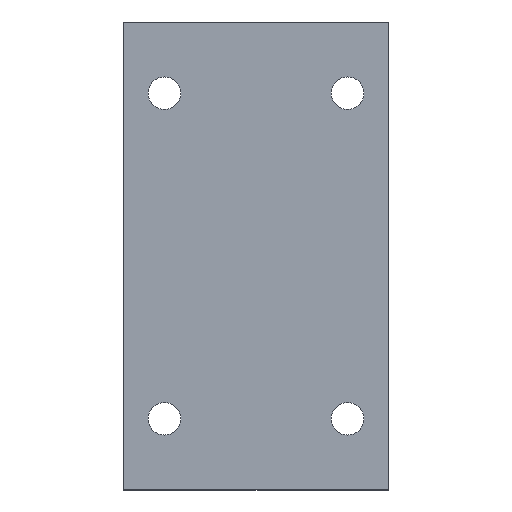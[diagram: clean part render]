
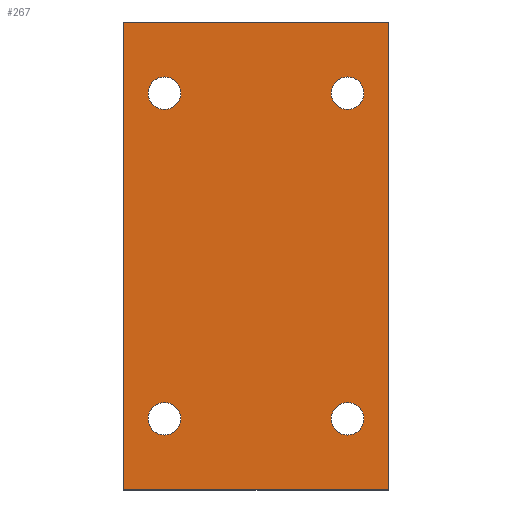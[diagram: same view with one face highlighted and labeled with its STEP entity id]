
A CAD part, top view. The second image highlights one B-rep face of the part: STEP entity #267.
In plain terms, the highlighted planar face has unit normal (0, 0, 1).
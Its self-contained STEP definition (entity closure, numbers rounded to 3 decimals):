
#32=CIRCLE('',#303,2.4);
#33=CIRCLE('',#304,2.4);
#34=CIRCLE('',#305,2.4);
#35=CIRCLE('',#306,2.4);
#68=ORIENTED_EDGE('',*,*,#116,.F.);
#69=ORIENTED_EDGE('',*,*,#117,.F.);
#70=ORIENTED_EDGE('',*,*,#118,.F.);
#71=ORIENTED_EDGE('',*,*,#119,.F.);
#72=ORIENTED_EDGE('',*,*,#100,.T.);
#73=ORIENTED_EDGE('',*,*,#104,.T.);
#74=ORIENTED_EDGE('',*,*,#107,.T.);
#75=ORIENTED_EDGE('',*,*,#110,.T.);
#100=EDGE_CURVE('',#128,#129,#152,.T.);
#104=EDGE_CURVE('',#129,#132,#156,.T.);
#107=EDGE_CURVE('',#132,#134,#159,.T.);
#110=EDGE_CURVE('',#134,#128,#162,.T.);
#116=EDGE_CURVE('',#140,#140,#32,.T.);
#117=EDGE_CURVE('',#141,#141,#33,.T.);
#118=EDGE_CURVE('',#142,#142,#34,.T.);
#119=EDGE_CURVE('',#143,#143,#35,.T.);
#128=VERTEX_POINT('',#412);
#129=VERTEX_POINT('',#413);
#132=VERTEX_POINT('',#421);
#134=VERTEX_POINT('',#427);
#140=VERTEX_POINT('',#445);
#141=VERTEX_POINT('',#447);
#142=VERTEX_POINT('',#449);
#143=VERTEX_POINT('',#451);
#152=LINE('',#411,#164);
#156=LINE('',#420,#168);
#159=LINE('',#426,#171);
#162=LINE('',#432,#174);
#164=VECTOR('',#331,1000.);
#168=VECTOR('',#337,1000.);
#171=VECTOR('',#342,1000.);
#174=VECTOR('',#347,1000.);
#185=EDGE_LOOP('',(#68));
#186=EDGE_LOOP('',(#69));
#187=EDGE_LOOP('',(#70));
#188=EDGE_LOOP('',(#71));
#189=EDGE_LOOP('',(#72,#73,#74,#75));
#223=FACE_BOUND('',#185,.T.);
#224=FACE_BOUND('',#186,.T.);
#225=FACE_BOUND('',#187,.T.);
#226=FACE_BOUND('',#188,.T.);
#227=FACE_BOUND('',#189,.T.);
#257=PLANE('',#302);
#267=ADVANCED_FACE('',(#223,#224,#225,#226,#227),#257,.T.);
#302=AXIS2_PLACEMENT_3D('',#443,#359,#360);
#303=AXIS2_PLACEMENT_3D('',#444,#361,#362);
#304=AXIS2_PLACEMENT_3D('',#446,#363,#364);
#305=AXIS2_PLACEMENT_3D('',#448,#365,#366);
#306=AXIS2_PLACEMENT_3D('',#450,#367,#368);
#331=DIRECTION('',(1.,0.,0.));
#337=DIRECTION('',(0.,1.,0.));
#342=DIRECTION('',(-1.,0.,0.));
#347=DIRECTION('',(0.,-1.,0.));
#359=DIRECTION('',(0.,0.,1.));
#360=DIRECTION('',(1.,0.,0.));
#361=DIRECTION('',(0.,0.,1.));
#362=DIRECTION('',(1.,0.,0.));
#363=DIRECTION('',(0.,0.,1.));
#364=DIRECTION('',(1.,0.,0.));
#365=DIRECTION('',(0.,0.,1.));
#366=DIRECTION('',(1.,0.,0.));
#367=DIRECTION('',(0.,0.,1.));
#368=DIRECTION('',(1.,0.,0.));
#411=CARTESIAN_POINT('',(-19.5,-34.5,0.));
#412=CARTESIAN_POINT('',(-19.5,-34.5,0.));
#413=CARTESIAN_POINT('',(19.5,-34.5,0.));
#420=CARTESIAN_POINT('',(19.5,-34.5,0.));
#421=CARTESIAN_POINT('',(19.5,34.5,0.));
#426=CARTESIAN_POINT('',(19.5,34.5,0.));
#427=CARTESIAN_POINT('',(-19.5,34.5,0.));
#432=CARTESIAN_POINT('',(-19.5,34.5,0.));
#443=CARTESIAN_POINT('',(0.,0.,0.));
#444=CARTESIAN_POINT('',(-13.5,24.,0.));
#445=CARTESIAN_POINT('',(-11.1,24.,0.));
#446=CARTESIAN_POINT('',(13.5,-24.,0.));
#447=CARTESIAN_POINT('',(15.9,-24.,0.));
#448=CARTESIAN_POINT('',(-13.5,-24.,0.));
#449=CARTESIAN_POINT('',(-11.1,-24.,0.));
#450=CARTESIAN_POINT('',(13.5,24.,0.));
#451=CARTESIAN_POINT('',(15.9,24.,0.));
